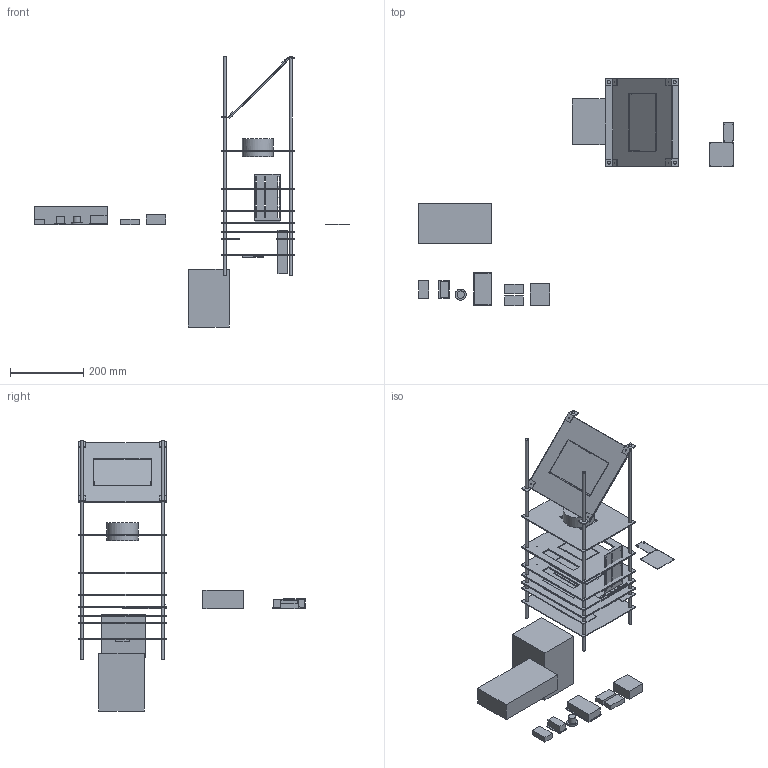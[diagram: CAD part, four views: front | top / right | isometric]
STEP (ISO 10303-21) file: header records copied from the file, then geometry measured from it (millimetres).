
FILE_DESCRIPTION(('HOOPS Exchange Step'),'2;1');
FILE_NAME('/private/var/mobile/Containers/Data/Application/87BF6C49-AB67-42BD-9AED-8B9B43AFA49D/tmp/export/temp_export','2023-07-14T15:12:04+02:00',('mobile'),('Shapr3D Limited'),'HOOPS Exchange 2022.2','Shapr3D','Authorized');
FILE_SCHEMA( ('AUTOMOTIVE_DESIGN { 1 0 10303 214 1 1 1 1 }') );
Length unit declared in the file: millimetre
Products named in the file (13): Lcd; Polariser; Back; Front; Fresnel; Projector lense; Fan; Mirror; Stangen; Psu; Led; Sidepanel; Old 
Assembly tree (12 placements, depth 3):
  Old 
    Lcd
    Fresnel
      Polariser
      Back
      Front
    Projector lense
    Fan
    Mirror
    Stangen
    Psu
    Led
    Sidepanel
Bounding box: 860 x 620 x 738 mm (x, y, z)
Volume: 5497828 mm3; surface area: 1580487.8 mm2
Topology: 44 solids, 44 shells, 699 faces, 1948 edges, 1353 vertices
Faces by surface type: plane 567, cylinder 132
Full cylindrical faces by diameter (mm): 2.4 x4, 3 x56, 3.2 x3, 4 x4, 8 x52, 15 x8, 20 x1, 30 x1, 85 x2
Entity records: 23520 total; most frequent: CARTESIAN_POINT 4013, ORIENTED_EDGE 3896, DIRECTION 3811, EDGE_CURVE 1948, VECTOR 1509, LINE 1509, VERTEX_POINT 1353, AXIS2_PLACEMENT_3D 1151
